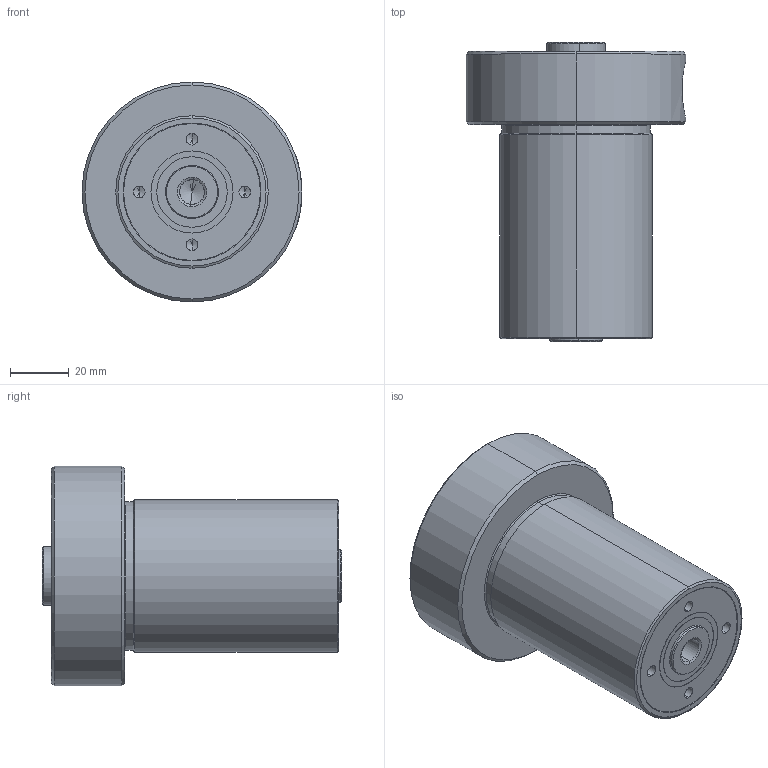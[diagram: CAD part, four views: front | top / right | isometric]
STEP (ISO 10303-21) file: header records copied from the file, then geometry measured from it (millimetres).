
FILE_DESCRIPTION (( 'STEP AP203' ), '1' );
FILE_NAME ('GERMA_Federspannzylinder_82-70-1.STEP', '2023-09-11T09:36:57', ( '' ), ( '' ), 'SwSTEP 2.0', 'SolidWorks 2016', '' );
FILE_SCHEMA (( 'CONFIG_CONTROL_DESIGN' ));
Length unit declared in the file: millimetre
Products named in the file (3): Kolben 82-70-1_Kolben 82-70-1; GH-82-70-1_GH-82-70-1; GERMA_Federspannzylinder_82-70-1
Assembly tree (2 placements, depth 2):
  GERMA_Federspannzylinder_82-70-1
    GH-82-70-1_GH-82-70-1
    Kolben 82-70-1_Kolben 82-70-1
Bounding box: 75 x 102 x 75 mm (x, y, z)
Volume: 252016.4 mm3; surface area: 48993.5 mm2
Topology: 2 solids, 2 shells, 137 faces, 292 edges, 168 vertices
Faces by surface type: cylinder 64, cone 46, plane 23, torus 4
Entity records: 3965 total; most frequent: DIRECTION 714, CARTESIAN_POINT 676, ORIENTED_EDGE 544, AXIS2_PLACEMENT_3D 302, EDGE_CURVE 272, EDGE_LOOP 168, VERTEX_POINT 168, CIRCLE 160
